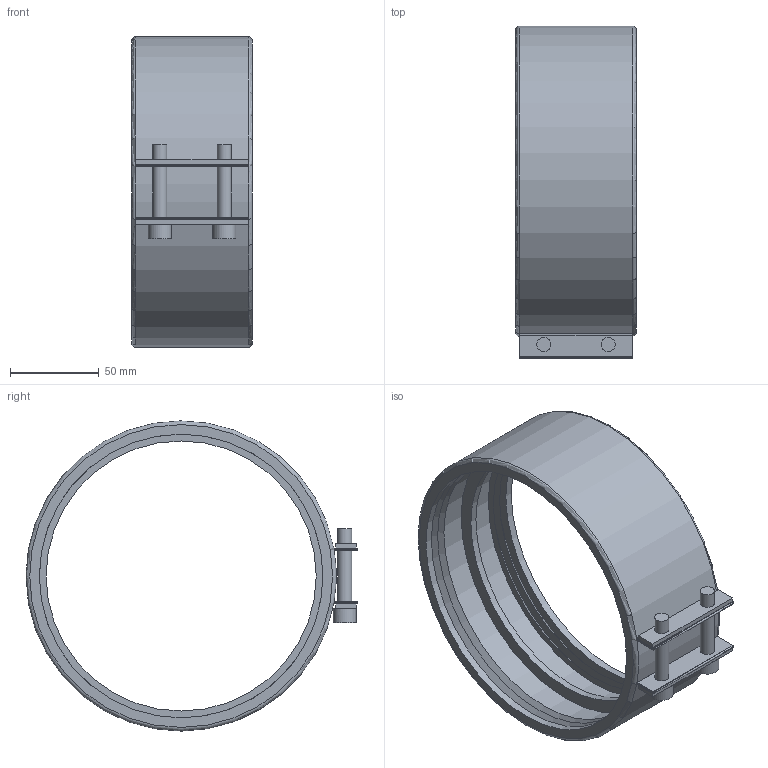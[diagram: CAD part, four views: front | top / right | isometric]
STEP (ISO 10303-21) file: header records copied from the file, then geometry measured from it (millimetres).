
FILE_DESCRIPTION( ( 'STEP AP214' ), '1' );
FILE_NAME( 'C:/Users/ilukic/Documents/ex/gebaudeentwasserung/pe/Geberit adapter clamping connector/359449.stp', '2020-03-26T18:41:22', ( '' ), ( '' ), ' ', 'PARTsolutions', ' ' );
FILE_SCHEMA( ( 'AUTOMOTIVE_DESIGN { 1 0 10303 214 1 1 1 1 }' ) );
Length unit declared in the file: millimetre
Products named in the file (1): _359449
Bounding box: 68 x 187.25 x 175 mm (x, y, z)
Volume: 183626.5 mm3; surface area: 118901.1 mm2
Topology: 1 solids, 1 shells, 121 faces, 309 edges, 202 vertices
Faces by surface type: plane 91, cylinder 22, cone 6, torus 2
Full cylindrical faces by diameter (mm): 8 x8, 13 x2, 152.381 x1, 160 x2, 167.946 x2
Entity records: 4402 total; most frequent: CARTESIAN_POINT 704, DIRECTION 544, ORIENTED_EDGE 536, EDGE_CURVE 268, AXIS2_PLACEMENT_3D 192, VERTEX_POINT 184, EDGE_LOOP 168, LINE 160
